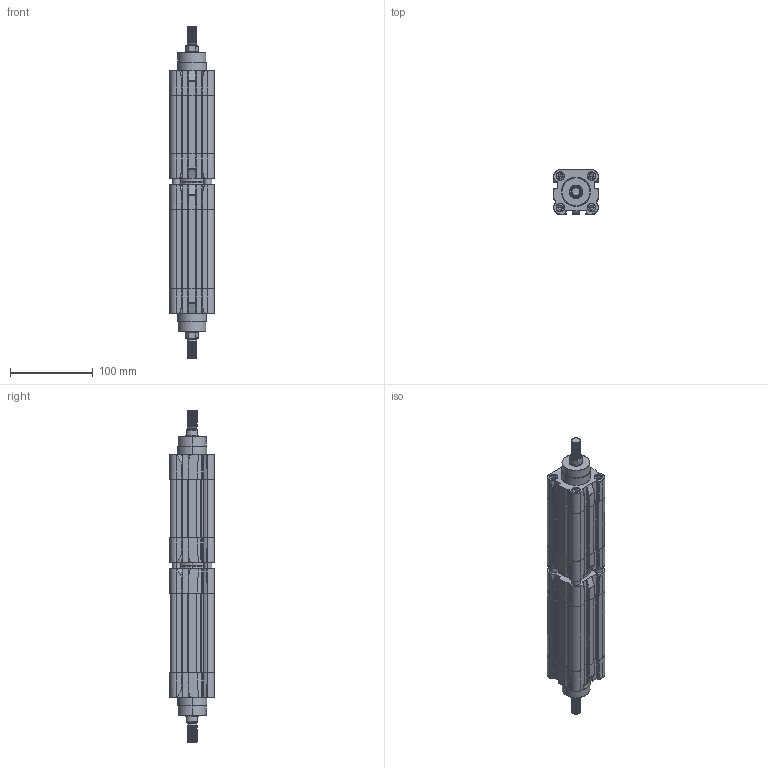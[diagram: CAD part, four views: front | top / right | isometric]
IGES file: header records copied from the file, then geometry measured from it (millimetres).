
Start section: SolidWorks IGES file using analytic representation for surfaces
Global section: file name: c:\CATALO3D\IGS\TTX40.0025-0050CNP.IGS; native system: SolidWorks 2005 by SolidWorks Corporation; preprocessor: SolidWorks 2005 by SolidWorks Corporation; author: tania; date: 051115.121122; units: millimetre
Bounding box: 54.05 x 54.2 x 401 mm (x, y, z)
Surface area: 199721.2 mm2 (no closed solid volume)
Topology: 0 solids, 0 shells, 1996 faces, 46396 edges, 56038 vertices
Faces by surface type: revolution 1156, bspline 840
